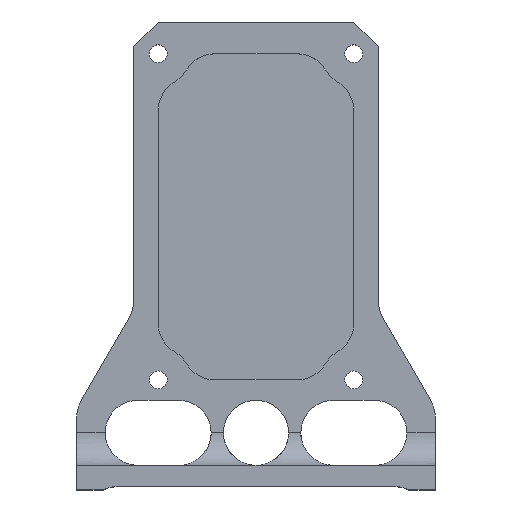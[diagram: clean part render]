
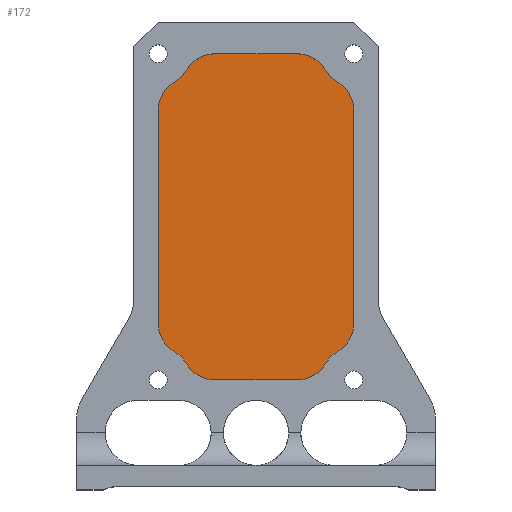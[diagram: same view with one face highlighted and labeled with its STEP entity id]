
A CAD part, top view. The second image highlights one B-rep face of the part: STEP entity #172.
In plain terms, the highlighted planar face has unit normal (0, 0, 1).
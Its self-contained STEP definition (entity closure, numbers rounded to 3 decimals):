
#117=FACE_OUTER_BOUND('',#492,.T.);
#172=ADVANCED_FACE('',(#117),#209,.F.);
#209=PLANE('',#1264);
#283=LINE('',#1876,#376);
#287=LINE('',#1886,#380);
#292=LINE('',#1898,#385);
#298=LINE('',#1912,#391);
#376=VECTOR('',#1527,1.);
#380=VECTOR('',#1537,1.);
#385=VECTOR('',#1548,1.);
#391=VECTOR('',#1560,1.);
#492=EDGE_LOOP('',(#750,#751,#752,#753,#754,#755,#756,#757,#758,#759,#760,
#761,#762,#763,#764,#765));
#750=ORIENTED_EDGE('',*,*,#1064,.F.);
#751=ORIENTED_EDGE('',*,*,#1087,.T.);
#752=ORIENTED_EDGE('',*,*,#1066,.F.);
#753=ORIENTED_EDGE('',*,*,#1088,.T.);
#754=ORIENTED_EDGE('',*,*,#1069,.F.);
#755=ORIENTED_EDGE('',*,*,#1089,.T.);
#756=ORIENTED_EDGE('',*,*,#1072,.F.);
#757=ORIENTED_EDGE('',*,*,#1090,.T.);
#758=ORIENTED_EDGE('',*,*,#1075,.F.);
#759=ORIENTED_EDGE('',*,*,#1091,.T.);
#760=ORIENTED_EDGE('',*,*,#1078,.F.);
#761=ORIENTED_EDGE('',*,*,#1092,.T.);
#762=ORIENTED_EDGE('',*,*,#1082,.F.);
#763=ORIENTED_EDGE('',*,*,#1093,.T.);
#764=ORIENTED_EDGE('',*,*,#1085,.F.);
#765=ORIENTED_EDGE('',*,*,#1094,.T.);
#922=VERTEX_POINT('',#1875);
#923=VERTEX_POINT('',#1877);
#924=VERTEX_POINT('',#1881);
#925=VERTEX_POINT('',#1882);
#926=VERTEX_POINT('',#1887);
#927=VERTEX_POINT('',#1888);
#928=VERTEX_POINT('',#1893);
#929=VERTEX_POINT('',#1894);
#930=VERTEX_POINT('',#1899);
#931=VERTEX_POINT('',#1900);
#932=VERTEX_POINT('',#1905);
#933=VERTEX_POINT('',#1906);
#934=VERTEX_POINT('',#1911);
#935=VERTEX_POINT('',#1913);
#936=VERTEX_POINT('',#1917);
#937=VERTEX_POINT('',#1919);
#1064=EDGE_CURVE('',#922,#923,#283,.T.);
#1066=EDGE_CURVE('',#924,#925,#1145,.T.);
#1069=EDGE_CURVE('',#926,#927,#287,.T.);
#1072=EDGE_CURVE('',#928,#929,#1146,.T.);
#1075=EDGE_CURVE('',#930,#931,#292,.T.);
#1078=EDGE_CURVE('',#932,#933,#1147,.T.);
#1082=EDGE_CURVE('',#934,#935,#298,.T.);
#1085=EDGE_CURVE('',#936,#937,#1148,.T.);
#1087=EDGE_CURVE('',#922,#925,#1149,.T.);
#1088=EDGE_CURVE('',#924,#927,#1150,.T.);
#1089=EDGE_CURVE('',#926,#929,#1151,.T.);
#1090=EDGE_CURVE('',#928,#931,#1152,.T.);
#1091=EDGE_CURVE('',#930,#933,#1153,.T.);
#1092=EDGE_CURVE('',#932,#935,#1154,.T.);
#1093=EDGE_CURVE('',#934,#937,#1155,.T.);
#1094=EDGE_CURVE('',#936,#923,#1156,.T.);
#1145=CIRCLE('',#1245,2.);
#1146=CIRCLE('',#1248,2.);
#1147=CIRCLE('',#1251,2.);
#1148=CIRCLE('',#1254,2.);
#1149=CIRCLE('',#1256,2.);
#1150=CIRCLE('',#1257,2.);
#1151=CIRCLE('',#1258,2.);
#1152=CIRCLE('',#1259,2.);
#1153=CIRCLE('',#1260,2.);
#1154=CIRCLE('',#1261,2.);
#1155=CIRCLE('',#1262,2.);
#1156=CIRCLE('',#1263,2.);
#1245=AXIS2_PLACEMENT_3D('',#1880,#1531,#1532);
#1248=AXIS2_PLACEMENT_3D('',#1892,#1542,#1543);
#1251=AXIS2_PLACEMENT_3D('',#1904,#1553,#1554);
#1254=AXIS2_PLACEMENT_3D('',#1918,#1565,#1566);
#1256=AXIS2_PLACEMENT_3D('',#1922,#1570,#1571);
#1257=AXIS2_PLACEMENT_3D('',#1923,#1572,#1573);
#1258=AXIS2_PLACEMENT_3D('',#1924,#1574,#1575);
#1259=AXIS2_PLACEMENT_3D('',#1925,#1576,#1577);
#1260=AXIS2_PLACEMENT_3D('',#1926,#1578,#1579);
#1261=AXIS2_PLACEMENT_3D('',#1927,#1580,#1581);
#1262=AXIS2_PLACEMENT_3D('',#1928,#1582,#1583);
#1263=AXIS2_PLACEMENT_3D('',#1929,#1584,#1585);
#1264=AXIS2_PLACEMENT_3D('',#1930,#1586,#1587);
#1527=DIRECTION('',(0.,1.,0.));
#1531=DIRECTION('',(0.,0.,1.));
#1532=DIRECTION('',(1.,0.,0.));
#1537=DIRECTION('',(-1.,0.,0.));
#1542=DIRECTION('',(0.,0.,1.));
#1543=DIRECTION('',(1.,0.,0.));
#1548=DIRECTION('',(0.,-1.,0.));
#1553=DIRECTION('',(0.,0.,1.));
#1554=DIRECTION('',(1.,0.,0.));
#1560=DIRECTION('',(1.,0.,0.));
#1565=DIRECTION('',(0.,0.,1.));
#1566=DIRECTION('',(1.,0.,0.));
#1570=DIRECTION('',(0.,0.,1.));
#1571=DIRECTION('',(-1.,0.,0.));
#1572=DIRECTION('',(0.,0.,1.));
#1573=DIRECTION('',(-1.,0.,0.));
#1574=DIRECTION('',(0.,0.,1.));
#1575=DIRECTION('',(-1.,0.,0.));
#1576=DIRECTION('',(0.,0.,1.));
#1577=DIRECTION('',(-1.,0.,0.));
#1578=DIRECTION('',(0.,0.,1.));
#1579=DIRECTION('',(-1.,0.,0.));
#1580=DIRECTION('',(0.,0.,1.));
#1581=DIRECTION('',(-1.,0.,0.));
#1582=DIRECTION('',(0.,0.,1.));
#1583=DIRECTION('',(-1.,0.,0.));
#1584=DIRECTION('',(0.,0.,1.));
#1585=DIRECTION('',(-1.,0.,0.));
#1586=DIRECTION('',(0.,0.,-1.));
#1587=DIRECTION('',(-1.,0.,0.));
#1875=CARTESIAN_POINT('',(-6.,-4.136,-2.));
#1876=CARTESIAN_POINT('',(-6.,10.4,-2.));
#1877=CARTESIAN_POINT('',(-6.,8.936,-2.));
#1880=CARTESIAN_POINT('',(-6.,-7.6,-2.));
#1881=CARTESIAN_POINT('',(-4.268,-6.6,-2.));
#1882=CARTESIAN_POINT('',(-5.,-5.868,-2.));
#1886=CARTESIAN_POINT('',(-4.,-7.6,-2.));
#1887=CARTESIAN_POINT('',(2.536,-7.6,-2.));
#1888=CARTESIAN_POINT('',(-2.536,-7.6,-2.));
#1892=CARTESIAN_POINT('',(6.,-7.6,-2.));
#1893=CARTESIAN_POINT('',(5.,-5.868,-2.));
#1894=CARTESIAN_POINT('',(4.268,-6.6,-2.));
#1898=CARTESIAN_POINT('',(6.,-5.6,-2.));
#1899=CARTESIAN_POINT('',(6.,8.936,-2.));
#1900=CARTESIAN_POINT('',(6.,-4.136,-2.));
#1904=CARTESIAN_POINT('',(6.,12.4,-2.));
#1905=CARTESIAN_POINT('',(4.268,11.4,-2.));
#1906=CARTESIAN_POINT('',(5.,10.668,-2.));
#1911=CARTESIAN_POINT('',(-2.536,12.4,-2.));
#1912=CARTESIAN_POINT('',(4.,12.4,-2.));
#1913=CARTESIAN_POINT('',(2.536,12.4,-2.));
#1917=CARTESIAN_POINT('',(-5.,10.668,-2.));
#1918=CARTESIAN_POINT('',(-6.,12.4,-2.));
#1919=CARTESIAN_POINT('',(-4.268,11.4,-2.));
#1922=CARTESIAN_POINT('',(-4.,-4.136,-2.));
#1923=CARTESIAN_POINT('',(-2.536,-5.6,-2.));
#1924=CARTESIAN_POINT('',(2.536,-5.6,-2.));
#1925=CARTESIAN_POINT('',(4.,-4.136,-2.));
#1926=CARTESIAN_POINT('',(4.,8.936,-2.));
#1927=CARTESIAN_POINT('',(2.536,10.4,-2.));
#1928=CARTESIAN_POINT('',(-2.536,10.4,-2.));
#1929=CARTESIAN_POINT('',(-4.,8.936,-2.));
#1930=CARTESIAN_POINT('',(-6.,-7.6,-2.));
